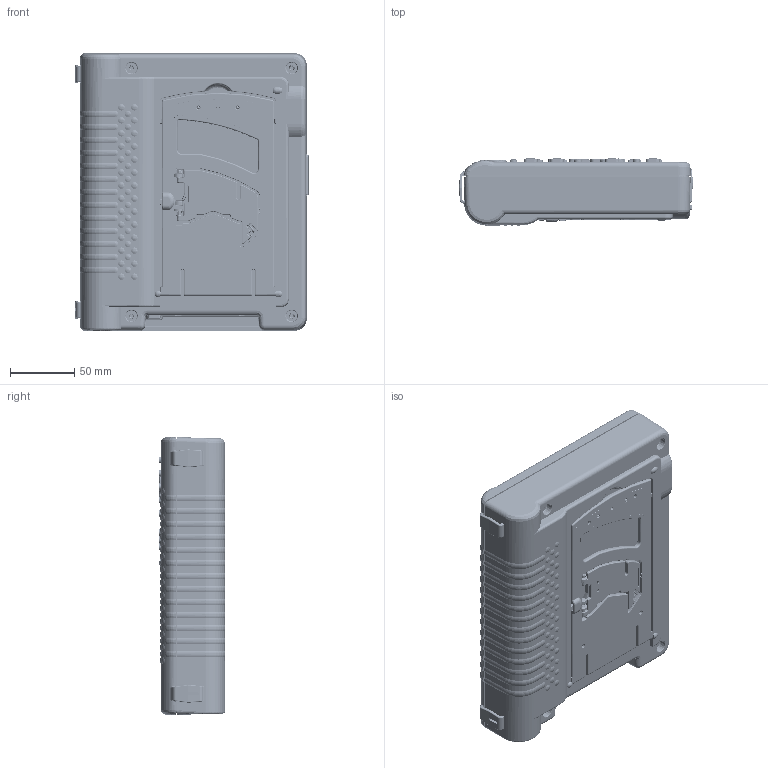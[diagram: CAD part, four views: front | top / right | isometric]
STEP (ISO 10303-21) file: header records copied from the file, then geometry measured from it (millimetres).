
FILE_DESCRIPTION((''),'2;1');
FILE_NAME('DIAMOND_ASM','2011-07-07T',('thnguyen'),(''),'PRO/ENGINEER BY PARAMETRIC TECHNOLOGY CORPORATION, 2010040','PRO/ENGINEER BY PARAMETRIC TECHNOLOGY CORPORATION, 2010040','');
FILE_SCHEMA(('CONFIG_CONTROL_DESIGN'));
Length unit declared in the file: inch
Products named in the file (19): 437045100; 337401000; 260261500; 441206600; DIAMOND_CASE_FRONT_ASM; 437045300; DEFAULT; 200421400_PLASTIC; 200421400_PLATE; 200421400_ORING; 200421400_ASM; 348142600_PLASTIC; 348142600_RUBBER; 348142600_HOOK; 348142600_ASM; 200426700_IOCOVER; 200426700_DCCOVER; DIAMOND_CASE_BACK_ASM; DIAMOND_ASM
Assembly tree (19 placements, depth 4):
  DIAMOND_ASM
    DIAMOND_CASE_FRONT_ASM
      437045100
      337401000
      260261500
      441206600
    DIAMOND_CASE_BACK_ASM
      437045300
      200421400_ASM
        DEFAULT
        200421400_PLASTIC
        200421400_PLATE
        200421400_ORING
      348142600_ASM
        DEFAULT
        348142600_PLASTIC
        348142600_RUBBER
        348142600_HOOK
      200426700_IOCOVER
      200426700_DCCOVER
Bounding box: 182.16 x 52.18 x 216.66 mm (x, y, z)
Volume: 499881.3 mm3; surface area: 433081.9 mm2
Topology: 13 solids, 13 shells, 6471 faces, 16143 edges, 9838 vertices
Faces by surface type: plane 2653, cylinder 1268, cone 1154, bspline 816, torus 410, sphere 165, revolution 5
Entity records: 276787 total; most frequent: CARTESIAN_POINT 128348, ORIENTED_EDGE 31834, DIRECTION 29197, EDGE_CURVE 15917, AXIS2_PLACEMENT_3D 10326, VERTEX_POINT 9838, VECTOR 8540, LINE 8540
